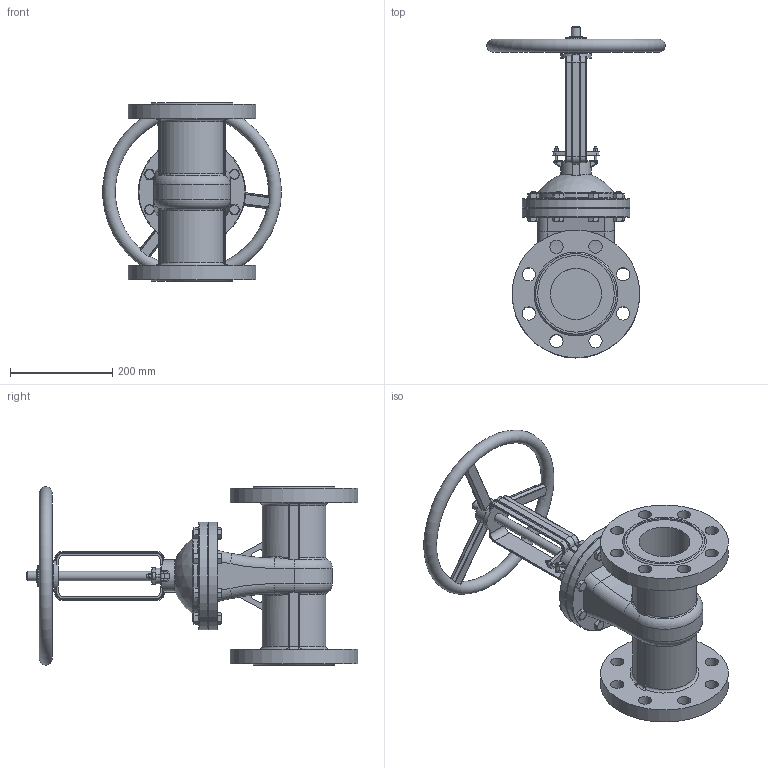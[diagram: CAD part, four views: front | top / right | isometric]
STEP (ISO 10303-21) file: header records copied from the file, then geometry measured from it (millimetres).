
FILE_DESCRIPTION(('STEP AP214'), '1');
FILE_NAME('GVWR3131M-2W-F-S Çàäâèæêà êëèíîâàÿ ñ âûäâèæíûì øòîêîì DN.ru Äó100 Ðó63', '', ('UNSPECIFIED'), ('UNSPECIFIED'), 'C3D Converter', 'C3D Toolkit', '');
FILE_SCHEMA(('AUTOMOTIVE_DESIGN { 1 0 10303 214 3 1 1}'));
Length unit declared in the file: millimetre
Products named in the file (1): GVWR3131M-2W-F-S
Bounding box: 349.37 x 650 x 350 mm (x, y, z)
Volume: 8295525.8 mm3; surface area: 799772.6 mm2
Topology: 1 solids, 1 shells, 722 faces, 1816 edges, 1140 vertices
Faces by surface type: plane 314, cylinder 196, torus 77, bspline 69, cone 65, sphere 1
Full cylindrical faces by diameter (mm): 3 x3, 5 x4, 8 x2, 12 x16, 18 x2, 20 x1, 25 x1, 26 x16, 30 x1, 40 x2, 50 x1, 60 x1, 100 x2, 150 x4, 210 x2, 250 x2
Entity records: 44458 total; most frequent: CARTESIAN_POINT 24593, ORIENTED_EDGE 3410, DIRECTION 2984, EDGE_CURVE 1705, AXIS2_PLACEMENT_3D 1179, VERTEX_POINT 1135, EDGE_LOOP 942, FACE_BOUND 785
